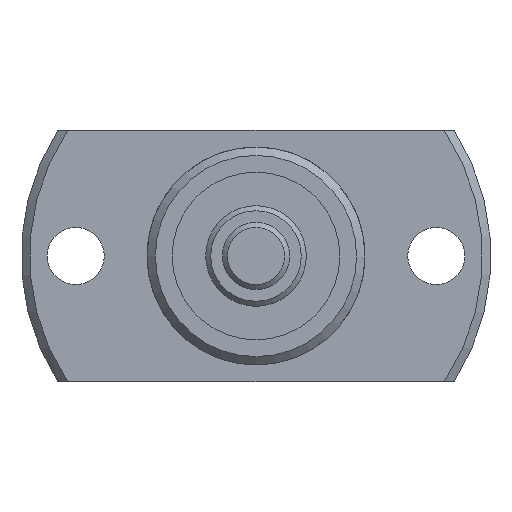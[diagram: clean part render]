
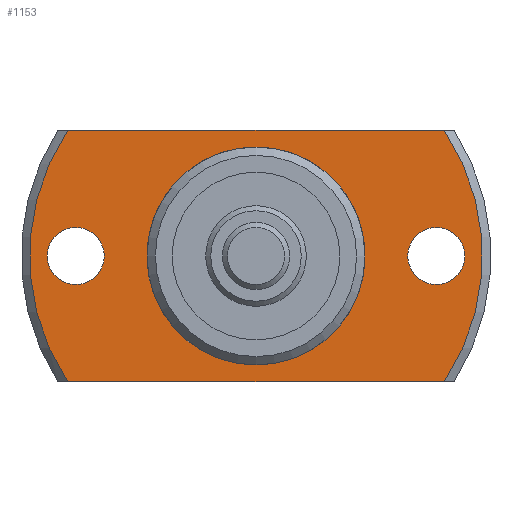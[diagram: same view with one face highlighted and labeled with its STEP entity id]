
A CAD part, left-side view. The second image highlights one B-rep face of the part: STEP entity #1153.
In plain terms, the highlighted planar face has unit normal (-1, 0, 0).
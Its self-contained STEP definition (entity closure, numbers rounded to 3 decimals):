
#111=LINE('',#1939,#169);
#112=LINE('',#1943,#170);
#169=VECTOR('',#1558,1000.);
#170=VECTOR('',#1561,1000.);
#309=ORIENTED_EDGE('',*,*,#573,.T.);
#310=ORIENTED_EDGE('',*,*,#574,.T.);
#311=ORIENTED_EDGE('',*,*,#562,.F.);
#312=ORIENTED_EDGE('',*,*,#575,.T.);
#313=ORIENTED_EDGE('',*,*,#576,.F.);
#314=ORIENTED_EDGE('',*,*,#577,.T.);
#315=ORIENTED_EDGE('',*,*,#556,.T.);
#556=EDGE_CURVE('',#701,#701,#798,.T.);
#562=EDGE_CURVE('',#706,#707,#801,.T.);
#573=EDGE_CURVE('',#716,#716,#807,.T.);
#574=EDGE_CURVE('',#717,#717,#808,.T.);
#575=EDGE_CURVE('',#706,#718,#111,.T.);
#576=EDGE_CURVE('',#719,#718,#809,.T.);
#577=EDGE_CURVE('',#719,#707,#112,.T.);
#701=VERTEX_POINT('',#1886);
#706=VERTEX_POINT('',#1900);
#707=VERTEX_POINT('',#1902);
#716=VERTEX_POINT('',#1936);
#717=VERTEX_POINT('',#1938);
#718=VERTEX_POINT('',#1940);
#719=VERTEX_POINT('',#1942);
#798=CIRCLE('',#1284,6.3);
#801=CIRCLE('',#1288,13.5);
#807=CIRCLE('',#1299,1.7);
#808=CIRCLE('',#1300,1.7);
#809=CIRCLE('',#1301,13.5);
#899=EDGE_LOOP('',(#309));
#900=EDGE_LOOP('',(#310));
#901=EDGE_LOOP('',(#311,#312,#313,#314));
#902=EDGE_LOOP('',(#315));
#1019=FACE_BOUND('',#899,.T.);
#1020=FACE_BOUND('',#900,.T.);
#1021=FACE_BOUND('',#901,.T.);
#1022=FACE_BOUND('',#902,.T.);
#1095=PLANE('',#1298);
#1153=ADVANCED_FACE('',(#1019,#1020,#1021,#1022),#1095,.F.);
#1284=AXIS2_PLACEMENT_3D('',#1885,#1520,#1521);
#1288=AXIS2_PLACEMENT_3D('',#1901,#1530,#1531);
#1298=AXIS2_PLACEMENT_3D('',#1934,#1552,#1553);
#1299=AXIS2_PLACEMENT_3D('',#1935,#1554,#1555);
#1300=AXIS2_PLACEMENT_3D('',#1937,#1556,#1557);
#1301=AXIS2_PLACEMENT_3D('',#1941,#1559,#1560);
#1520=DIRECTION('',(1.,0.,0.));
#1521=DIRECTION('',(0.,0.,-1.));
#1530=DIRECTION('',(1.,0.,0.));
#1531=DIRECTION('',(0.,0.,-1.));
#1552=DIRECTION('',(1.,0.,0.));
#1553=DIRECTION('',(0.,0.,-1.));
#1554=DIRECTION('',(1.,0.,0.));
#1555=DIRECTION('',(0.,0.,-1.));
#1556=DIRECTION('',(1.,0.,0.));
#1557=DIRECTION('',(0.,0.,-1.));
#1558=DIRECTION('',(0.,-1.,0.));
#1559=DIRECTION('',(1.,0.,0.));
#1560=DIRECTION('',(0.,0.,-1.));
#1561=DIRECTION('',(0.,1.,0.));
#1885=CARTESIAN_POINT('',(13.,0.,0.));
#1886=CARTESIAN_POINT('',(13.,0.,-6.3));
#1900=CARTESIAN_POINT('',(13.,11.225,-7.5));
#1901=CARTESIAN_POINT('',(13.,0.,0.));
#1902=CARTESIAN_POINT('',(13.,11.225,7.5));
#1934=CARTESIAN_POINT('',(13.,6.3,0.));
#1935=CARTESIAN_POINT('',(13.,-10.75,0.));
#1936=CARTESIAN_POINT('',(13.,-10.75,-1.7));
#1937=CARTESIAN_POINT('',(13.,10.75,0.));
#1938=CARTESIAN_POINT('',(13.,10.75,-1.7));
#1939=CARTESIAN_POINT('',(13.,6.3,-7.5));
#1940=CARTESIAN_POINT('',(13.,-11.225,-7.5));
#1941=CARTESIAN_POINT('',(13.,0.,0.));
#1942=CARTESIAN_POINT('',(13.,-11.225,7.5));
#1943=CARTESIAN_POINT('',(13.,6.3,7.5));
